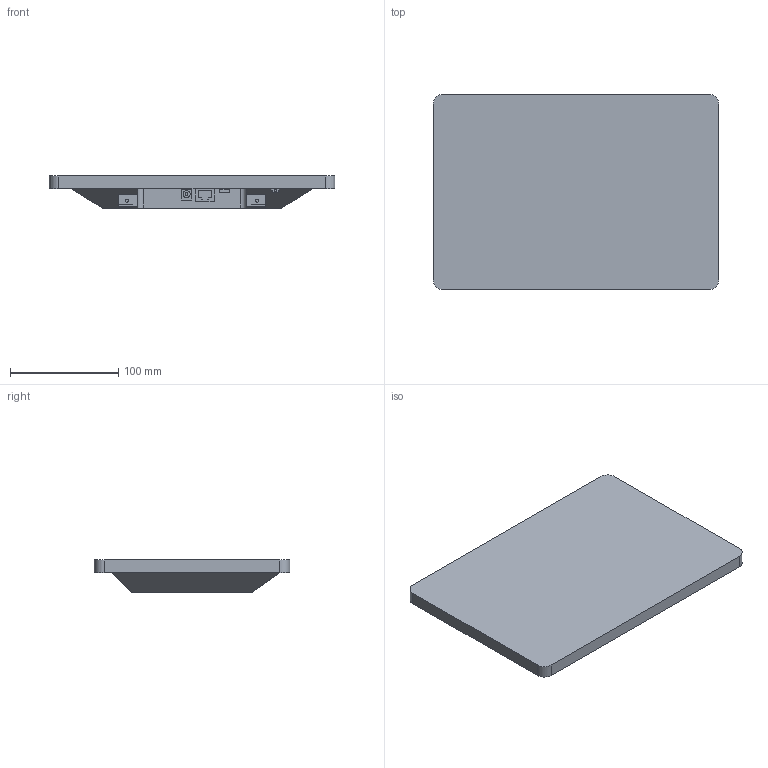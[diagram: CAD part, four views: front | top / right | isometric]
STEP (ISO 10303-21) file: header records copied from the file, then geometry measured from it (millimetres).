
FILE_DESCRIPTION (( 'STEP AP214' ), '1' );
FILE_NAME ('FG-901697-3D-A (STANDALONE).STEP', '2026-07-13T22:34:13', ( '' ), ( '' ), 'SwSTEP 2.0', 'SolidWorks 2023', '' );
FILE_SCHEMA (( 'AUTOMOTIVE_DESIGN' ));
Length unit declared in the file: millimetre
Products named in the file (1): FG-901697-3D-A (STANDALONE)
Bounding box: 263.37 x 180.25 x 29.6 mm (x, y, z)
Volume: 907924.2 mm3; surface area: 115150.7 mm2
Topology: 1 solids, 1 shells, 120 faces, 318 edges, 212 vertices
Faces by surface type: plane 100, cylinder 20
Entity records: 3705 total; most frequent: CARTESIAN_POINT 651, ORIENTED_EDGE 636, DIRECTION 600, EDGE_CURVE 318, VECTOR 278, LINE 278, VERTEX_POINT 212, AXIS2_PLACEMENT_3D 161
